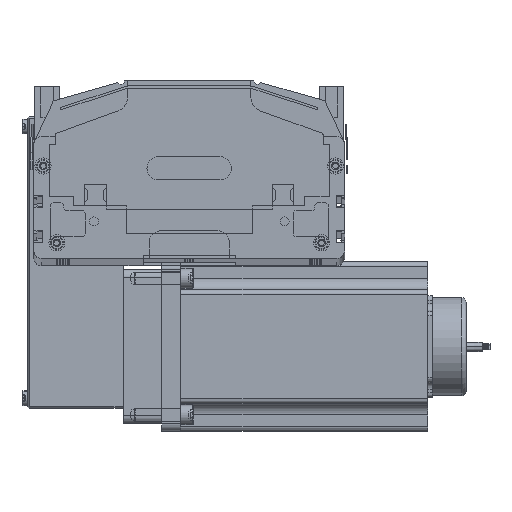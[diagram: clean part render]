
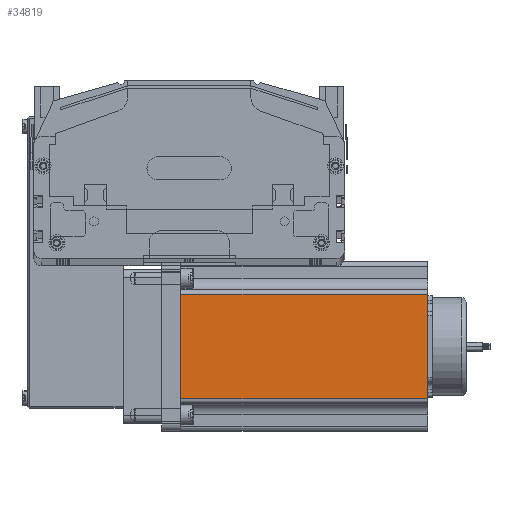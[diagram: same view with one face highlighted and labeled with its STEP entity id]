
A CAD part, top view. The second image highlights one B-rep face of the part: STEP entity #34819.
In plain terms, the highlighted planar face has unit normal (0, 0, 1) as drawn and (0, -1, 0) by its records, which use the part's own axes.
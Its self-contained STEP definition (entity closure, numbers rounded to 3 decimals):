
#34719 = VERTEX_POINT ( 'NONE', #48651 ) ;
#34720 = VERTEX_POINT ( 'NONE', #48666 ) ;
#34727 = EDGE_CURVE ( 'NONE', #34719, #34720, #48767, .T. ) ;
#34731 = ORIENTED_EDGE ( 'NONE', *, *, #34727, .F. ) ;
#34732 = EDGE_CURVE ( 'NONE', #34719, #34838, #48849, .T. ) ;
#34761 = EDGE_CURVE ( 'NONE', #34838, #34839, #47551, .T. ) ;
#34819 = ADVANCED_FACE ( 'NONE', ( #49009 ), #49065, .F. ) ;
#34821 = ORIENTED_EDGE ( 'NONE', *, *, #34826, .T. ) ;
#34823 = ORIENTED_EDGE ( 'NONE', *, *, #34761, .T. ) ;
#34826 = EDGE_CURVE ( 'NONE', #34839, #34720, #49054, .T. ) ;
#34828 = ORIENTED_EDGE ( 'NONE', *, *, #34732, .T. ) ;
#34838 = VERTEX_POINT ( 'NONE', #49082 ) ;
#34839 = VERTEX_POINT ( 'NONE', #49084 ) ;
#34840 = EDGE_LOOP ( 'NONE', ( #34823, #34821, #34731, #34828 ) ) ;
#47535 = VECTOR ( 'NONE', #48053, 1000. ) ;
#47536 = CARTESIAN_POINT ( 'NONE',  ( 0., 0., 0. ) ) ;
#47551 = LINE ( 'NONE', #47536, #47535 ) ;
#48053 = DIRECTION ( 'NONE',  ( 1., 0., 0. ) ) ;
#48651 = CARTESIAN_POINT ( 'NONE',  ( 21.048, 0., 160.5 ) ) ;
#48666 = CARTESIAN_POINT ( 'NONE',  ( 88.952, 0., 160.5 ) ) ;
#48745 = DIRECTION ( 'NONE',  ( 1., 0., 0. ) ) ;
#48747 = VECTOR ( 'NONE', #48745, 1000. ) ;
#48766 = CARTESIAN_POINT ( 'NONE',  ( 0., 0., 160.5 ) ) ;
#48767 = LINE ( 'NONE', #48766, #48747 ) ;
#48845 = DIRECTION ( 'NONE',  ( 0., 0., -1. ) ) ;
#48846 = VECTOR ( 'NONE', #48845, 1000. ) ;
#48848 = CARTESIAN_POINT ( 'NONE',  ( 21.048, 0., 160.5 ) ) ;
#48849 = LINE ( 'NONE', #48848, #48846 ) ;
#49009 = FACE_OUTER_BOUND ( 'NONE', #34840, .T. ) ;
#49011 = AXIS2_PLACEMENT_3D ( 'NONE', #49067, #49066, #49064 ) ;
#49051 = DIRECTION ( 'NONE',  ( 0., 0., 1. ) ) ;
#49052 = VECTOR ( 'NONE', #49051, 1000. ) ;
#49053 = CARTESIAN_POINT ( 'NONE',  ( 88.952, 0., 160.5 ) ) ;
#49054 = LINE ( 'NONE', #49053, #49052 ) ;
#49064 = DIRECTION ( 'NONE',  ( 0., 0., 1. ) ) ;
#49065 = PLANE ( 'NONE',  #49011 ) ;
#49066 = DIRECTION ( 'NONE',  ( 0., 1., 0. ) ) ;
#49067 = CARTESIAN_POINT ( 'NONE',  ( 0., 0., 160.5 ) ) ;
#49082 = CARTESIAN_POINT ( 'NONE',  ( 21.048, 0., 0. ) ) ;
#49084 = CARTESIAN_POINT ( 'NONE',  ( 88.952, 0., 0. ) ) ;
